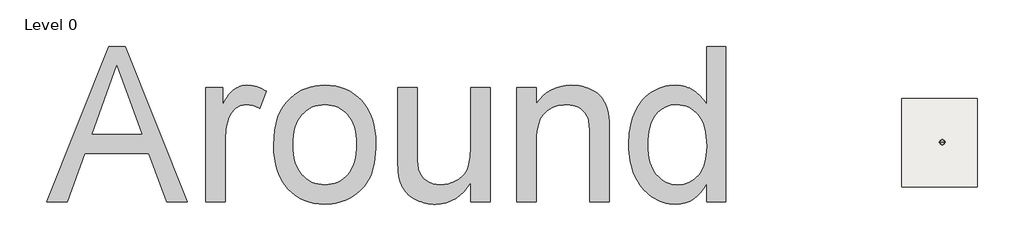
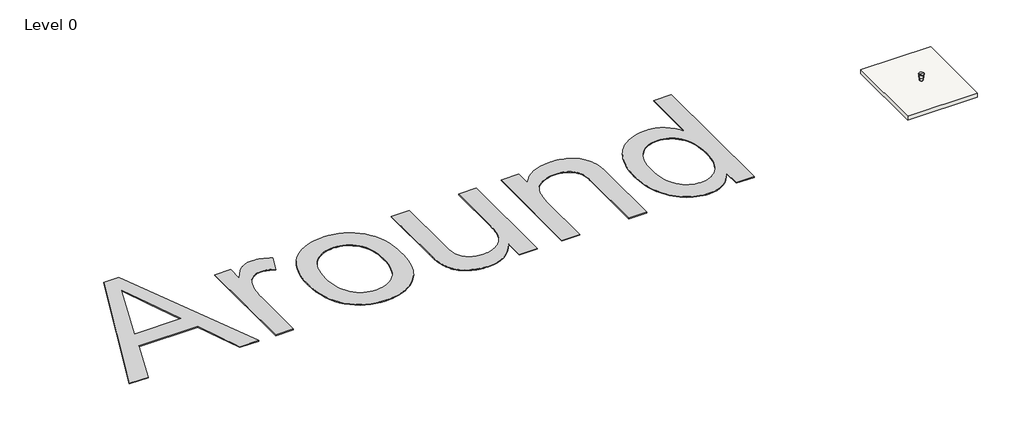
# One storey: 1 furniture element, 1 proxy, 1 slab.
"""IFC4 building model written with IfcOpenShell, lengths in millimetres."""

from ifc_helpers import new_model, si_unit, frame, origin, origin_with_axes, place, context, project, spatial, polyline, outline, extrude, transform, mapped, element, save
from components import furniture_19742f42

model = new_model("IFC4")

# Units and contexts
model_context = context("Model", 3, world=origin())
ifc_project = project(units=[si_unit("LENGTHUNIT", "METRE", prefix="MILLI")], contexts=[model_context])

# Site, building, storey
site = spatial("IfcSite", under=ifc_project)
building = spatial("IfcBuilding", under=site)
storey = spatial("IfcBuildingStorey", under=building, Name="Level 0", Elevation=0.0)

# Proxy
placement = place(None, origin())
element("IfcBuildingElementProxy", 1, Name="10 mm", ObjectType="10 mm", at=placement, inside=storey, context=model_context, shape_type="SweptSolid", body=[
    extrude(outline(polyline([(-160248.6830826, 70710.4267394), (-156238.7693352, 80756.0577544), (-155169.4590025, 80756.0577544), (-151159.5452551, 70710.4267394), (-152486.3729844, 70710.4267394), (-153636.617356, 73849.6864316), (-157774.0635284, 73849.6864316), (-158921.8553533, 70710.4267394), (-160248.6830826, 70710.4267394)]), holes=[polyline([(-157312.9847611, 75105.3903085), (-154095.2435766, 75105.3903085), (-155000.2332847, 77575.1047694), (-155704.1141689, 79500.3538775), (-156329.5135607, 77790.9288732), (-157312.9847611, 75105.3903085)])]), origin_with_axes(), (0.0, 0.0, 1.0), 50.0),
    extrude(outline(polyline([(-149974.9652306, 70710.4267394), (-149974.9652306, 78087.687016), (-148876.2243384, 78087.687016), (-148876.2243384, 76996.3037637), (-148771.7611802, 77178.8652038), (-148669.2907161, 77345.1785224), (-148568.8129462, 77495.2437196), (-148470.3278704, 77629.0607954), (-148373.8354887, 77746.6297497), (-148279.3358012, 77847.9505825), (-148186.8288078, 77933.0232939), (-148096.3145086, 78001.8478838), (-148005.7235673, 78058.7546299), (-147912.9866477, 78108.0738099), (-147818.1037497, 78149.8054237), (-147721.0748735, 78183.9494714), (-147621.900019, 78210.505953), (-147520.5791861, 78229.4748683), (-147417.112375, 78240.8562176), (-147311.4995856, 78244.6500006), (-147156.0694426, 78238.5952761), (-147000.026163, 78220.4311026), (-146843.3697467, 78190.1574801), (-146686.1001938, 78147.7744086), (-146528.2175042, 78093.281888), (-146369.7216779, 78026.6799185), (-146210.612715, 77947.9684999), (-146050.8906154, 77857.1476324), (-146470.2760899, 76731.4287271), (-146580.6406885, 76791.784367), (-146691.005287, 76844.0925882), (-146801.3698856, 76888.3533907), (-146911.7344841, 76924.5667746), (-147022.0990827, 76952.7327399), (-147132.4636812, 76972.8512865), (-147242.8282798, 76984.9224144), (-147353.1928783, 76988.9461238), (-147450.6624465, 76985.0756986), (-147545.6411471, 76973.4644231), (-147638.1289799, 76954.1122973), (-147728.1259451, 76927.0193212), (-147815.6320426, 76892.1854948), (-147900.6472724, 76849.6108181), (-147983.1716346, 76799.295291), (-148063.205129, 76741.2389137), (-148139.2149142, 76676.3230699), (-148209.6681484, 76605.4291438), (-148274.5648316, 76528.5571352), (-148333.9049638, 76445.7070442), (-148387.6885451, 76356.8788708), (-148435.9155754, 76262.072615), (-148478.5860547, 76161.2882767), (-148515.6999831, 76054.525856), (-148563.4096793, 75885.1468541), (-148604.7580828, 75711.7824638), (-148639.7451933, 75534.4326853), (-148668.3710111, 75353.0975185), (-148690.635536, 75167.7769635), (-148706.5387681, 74978.4710201), (-148716.0807073, 74785.1796885), (-148719.2613538, 74587.9029686), (-148719.2613538, 70710.4267394), (-149974.9652306, 70710.4267394)])), origin_with_axes(), (0.0, 0.0, 1.0), 50.0),
    extrude(outline(polyline([(-145580.0016616, 74399.0568777), (-145563.0254403, 74893.2833456), (-145512.0967766, 75354.477076), (-145427.2156705, 75782.638069), (-145308.3821218, 76177.7663244), (-145155.5961307, 76539.8618424), (-144968.8576971, 76868.9246228), (-144748.166821, 77164.9546658), (-144493.5235025, 77427.9519713), (-144260.4549301, 77619.365572), (-144014.9703404, 77785.2573592), (-143757.0697334, 77925.6273329), (-143486.753109, 78040.4754933), (-143204.0204673, 78129.8018403), (-142908.8718083, 78193.6063738), (-142601.3071319, 78231.8890939), (-142281.3264382, 78244.6500006), (-141926.6460417, 78229.1108184), (-141588.558656, 78182.4932719), (-141267.0642812, 78104.7973609), (-140962.1629171, 77996.0230856), (-140673.8545639, 77856.1704458), (-140402.1392216, 77685.2394417), (-140147.01689, 77483.2300732), (-139908.4875693, 77250.1423403), (-139692.6443049, 76989.655063), (-139505.5801425, 76705.4470612), (-139347.2950819, 76397.518335), (-139217.7891233, 76065.8688842), (-139117.0622666, 75710.498709), (-139045.1145118, 75331.4078092), (-139001.945859, 74928.596185), (-138987.556308, 74502.0638364), (-138993.9176009, 74156.5230082), (-139013.0014794, 73829.9127743), (-139044.8079435, 73522.2331348), (-139089.3369933, 73233.4840897), (-139146.5886288, 72963.6656388), (-139216.56285, 72712.7777823), (-139299.2596568, 72480.8205202), (-139394.6790493, 72267.7938523), (-139502.2653724, 72069.9231563), (-139621.462971, 71883.4338094), (-139752.271845, 71708.3258118), (-139894.6919945, 71544.5991635), (-140048.7234194, 71392.2538643), (-140214.3661198, 71251.2899144), (-140391.6200958, 71121.7073137), (-140580.4853471, 71003.5060622), (-140777.3980172, 70898.0273964), (-140978.794249, 70806.6125527), (-141184.6740426, 70729.2615311), (-141395.0373981, 70665.9743317), (-141609.8843154, 70616.7509543), (-141829.2147945, 70581.591399), (-142053.0288354, 70560.4956659), (-142281.3264382, 70553.4637548), (-142641.6017067, 70568.9454554), (-142984.2109752, 70615.3905573), (-143309.1542438, 70692.7990605), (-143616.4315123, 70801.1709649), (-143906.0427809, 70940.5062706), (-144177.9880496, 71110.8049775), (-144432.2673182, 71312.0670857), (-144668.8805869, 71544.2925951), (-144882.4245888, 71805.6420959), (-145067.4960571, 72094.2761779), (-145224.0949918, 72410.1948413), (-145352.2213929, 72753.398086), (-145451.8752605, 73123.8859119), (-145523.0565944, 73521.6583192), (-145565.7653948, 73946.7153078), (-145580.0016616, 74399.0568777)]), holes=[polyline([(-144324.2977847, 74401.5094244), (-144315.215698, 74086.7595527), (-144287.9694377, 73792.4347961), (-144242.5590039, 73518.5351544), (-144178.9843966, 73265.0606276), (-144097.2456158, 73032.0112157), (-143997.3426615, 72819.3869188), (-143879.2755337, 72627.1877369), (-143743.0442323, 72455.4136699), (-143593.0556772, 72303.9497547), (-143433.7167881, 72172.6810282), (-143265.0275649, 72061.6074903), (-143086.9880076, 71970.7291412), (-142899.5981163, 71900.0459808), (-142702.857891, 71849.5580091), (-142496.7673316, 71819.265226), (-142281.3264382, 71809.1676317), (-142067.035176, 71819.3227076), (-141861.9409637, 71849.7879353), (-141666.0438012, 71900.5633148), (-141479.3436887, 71971.6488462), (-141301.840626, 72063.0445294), (-141133.5346132, 72174.7503644), (-140974.4256503, 72306.7663512), (-140824.5137373, 72459.0924898), (-140688.2824359, 72632.2269538), (-140570.2153081, 72826.6679167), (-140470.3123538, 73042.4153784), (-140388.573573, 73279.4693391), (-140324.9989657, 73537.8297986), (-140279.5885319, 73817.496757), (-140252.3422716, 74118.4702143), (-140243.2601849, 74440.7501705), (-140252.3997532, 74745.153361), (-140279.8184582, 75030.510994), (-140325.5162997, 75296.8230696), (-140389.493278, 75544.0895877), (-140471.7493928, 75772.3105484), (-140572.2846443, 75981.4859516), (-140691.0990325, 76171.6157973), (-140828.1925572, 76342.7000856), (-140978.8517306, 76494.1640008), (-141138.3630644, 76625.4327273), (-141306.7265588, 76736.5062651), (-141483.9422136, 76827.3846142), (-141670.010029, 76898.0677746), (-141864.9300049, 76948.5557464), (-142068.7021413, 76978.8485294), (-142281.3264382, 76988.9461238), (-142496.7673316, 76978.8868505), (-142702.857891, 76948.7090305), (-142899.5981163, 76898.412664), (-143086.9880076, 76827.9977509), (-143265.0275649, 76737.4642911), (-143433.7167881, 76626.8122848), (-143593.0556772, 76496.0417318), (-143743.0442323, 76345.1526322), (-143879.2755337, 76173.9533808), (-143997.3426615, 75982.2523724), (-144097.2456158, 75770.0496069), (-144178.9843966, 75537.3450845), (-144242.5590039, 75284.138805), (-144287.9694377, 75010.4307685), (-144315.215698, 74716.2209749), (-144324.2977847, 74401.5094244)])]), origin_with_axes(), (0.0, 0.0, 1.0), 50.0),
    extrude(outline(polyline([(-132865.9999083, 70710.4267394), (-132865.9999083, 71978.3933495), (-133083.8167063, 71644.4254757), (-133320.3341723, 71354.9866518), (-133575.5523065, 71110.0768777), (-133849.4711087, 70909.6961535), (-134142.090579, 70753.844479), (-134453.4107175, 70642.5218545), (-134783.431524, 70575.7282797), (-135132.1529986, 70553.4637548), (-135289.0201806, 70557.372501), (-135443.2432107, 70569.0987396), (-135594.8220891, 70588.6424706), (-135743.7568155, 70616.003694), (-135890.0473902, 70651.1824098), (-136033.693813, 70694.178618), (-136174.696084, 70744.9923185), (-136313.0542031, 70803.6235115), (-136445.6833266, 70868.1561448), (-136569.4986106, 70936.6741664), (-136684.5000551, 71009.1775763), (-136790.6876602, 71085.6663745), (-136888.0614258, 71166.1405609), (-136976.6213519, 71250.6001357), (-137056.3674385, 71339.0450987), (-137127.2996857, 71431.47545), (-137191.353306, 71528.5426472), (-137250.463512, 71630.8981482), (-137304.6303037, 71738.5419528), (-137353.8536811, 71851.4740611), (-137398.1336442, 71969.6944731), (-137437.4701929, 72093.2031888), (-137471.8633274, 72222.0002081), (-137501.3130475, 72356.0855312), (-137518.557516, 72454.8005332), (-137533.5027221, 72567.0045417), (-137546.1486657, 72692.6975568), (-137556.4953468, 72831.8795783), (-137570.2909216, 73150.7106407), (-137574.8894465, 73523.4977292), (-137574.8894465, 78087.687016), (-136319.1855697, 78087.687016), (-136319.1855697, 74114.5614681), (-136314.4337606, 73678.6213038), (-136300.1783333, 73319.9363585), (-136289.4867628, 73169.564593), (-136276.4192877, 73038.5066322), (-136260.9759081, 72926.7624762), (-136243.156624, 72834.3321249), (-136209.6448735, 72717.9702834), (-136167.9707412, 72608.0080558), (-136118.1342272, 72504.445442), (-136060.1353314, 72407.2824422), (-135993.9740538, 72316.5190562), (-135919.6503945, 72232.155284), (-135837.1643534, 72154.1911258), (-135746.5159305, 72082.6265814), (-135649.0080413, 72018.5346401), (-135545.9436011, 71962.9882909), (-135437.3226099, 71915.9875339), (-135323.1450677, 71877.5323691), (-135203.4109746, 71847.6227965), (-135078.1203305, 71826.258816), (-134947.2731355, 71813.4404278), (-134810.8693894, 71809.1676317), (-134672.1663809, 71813.5362304), (-134535.6476718, 71826.6420264), (-134401.313262, 71848.4850199), (-134269.1631515, 71879.0652108), (-134139.1973404, 71918.382599), (-134011.4158287, 71966.4371846), (-133885.8186163, 72023.2289676), (-133762.4057032, 72088.757948), (-133644.5493411, 72161.817013), (-133535.6217816, 72241.1990498), (-133435.6230247, 72326.9040583), (-133344.5530703, 72418.9320387), (-133262.4119186, 72517.2829908), (-133189.1995695, 72621.9569148), (-133124.9160229, 72732.9538105), (-133069.5612789, 72850.273678), (-133021.8515827, 72977.5570162), (-132980.5031793, 73118.4443241), (-132945.5160687, 73272.9356015), (-132916.8902509, 73441.0308486), (-132894.625726, 73622.7300653), (-132878.7224939, 73818.0332516), (-132869.1805547, 74026.9404075), (-132865.9999083, 74249.451533), (-132865.9999083, 78087.687016), (-131610.2960314, 78087.687016), (-131610.2960314, 70710.4267394), (-132865.9999083, 70710.4267394)])), origin_with_axes(), (0.0, 0.0, 1.0), 50.0),
    extrude(outline(polyline([(-129883.7032007, 70710.4267394), (-129883.7032007, 78087.687016), (-128627.9993238, 78087.687016), (-128627.9993238, 77057.6174295), (-128420.8357753, 77335.8281884), (-128191.7525912, 77576.9441794), (-127940.7497716, 77780.9654025), (-127667.8273164, 77947.8918579), (-127372.9852257, 78077.7235453), (-127056.2234994, 78170.4604649), (-126717.5421376, 78226.1026167), (-126356.9411403, 78244.6500006), (-126197.3148433, 78240.9136991), (-126040.9458348, 78229.7047946), (-125887.8341149, 78211.023287), (-125737.9796834, 78184.8691764), (-125591.3825404, 78151.2424628), (-125448.0426859, 78110.1431461), (-125307.96012, 78061.5712265), (-125171.1348425, 78005.5267038), (-125040.1918448, 77943.408296), (-124917.7561183, 77876.6147213), (-124803.8276629, 77805.1459795), (-124698.4064787, 77729.0020707), (-124601.4925656, 77648.1829949), (-124513.0859236, 77562.6887521), (-124433.1865528, 77472.5193422), (-124361.7944531, 77377.6747653), (-124297.1660172, 77278.212503), (-124237.5576377, 77174.1900367), (-124182.9693145, 77065.6073666), (-124133.4010478, 76952.4644926), (-124088.8528374, 76834.7614146), (-124049.3246835, 76712.4981328), (-124014.8165859, 76585.6746471), (-123985.3285447, 76454.2909574), (-123969.808523, 76359.6763068), (-123956.3578376, 76248.7368926), (-123944.9764884, 76121.4727149), (-123935.6644754, 75977.8837737), (-123923.248458, 75641.7316006), (-123919.1097856, 75240.2803734), (-123919.1097856, 70710.4267394), (-125174.8136624, 70710.4267394), (-125174.8136624, 75071.0546556), (-125177.0746039, 75250.9719438), (-125183.8574282, 75419.1629935), (-125195.1621353, 75575.6278046), (-125210.9887253, 75720.3663771), (-125231.3371982, 75853.3787109), (-125256.2075539, 75974.6648062), (-125285.5997925, 76084.2246629), (-125319.5139139, 76182.058281), (-125359.157031, 76271.7103568), (-125405.7362565, 76356.7255866), (-125459.2515905, 76437.1039705), (-125519.7030329, 76512.8455083), (-125587.0905838, 76583.9502002), (-125661.4142431, 76650.4180461), (-125742.6740109, 76712.249046), (-125830.8698872, 76769.4432), (-125924.5456723, 76820.8891977), (-126022.2451668, 76865.4757291), (-126123.9683705, 76903.2027942), (-126229.7152836, 76934.0703928), (-126339.485906, 76958.0785251), (-126453.2802378, 76975.227191), (-126571.0982788, 76985.5163906), (-126692.9400292, 76988.9461238), (-126886.9786211, 76981.2435945), (-127074.2343888, 76958.1360067), (-127254.7073322, 76919.6233603), (-127428.3974512, 76865.7056554), (-127595.304746, 76796.3828919), (-127755.4292165, 76711.6550699), (-127908.7708627, 76611.5221893), (-128055.3296847, 76495.9842502), (-128189.5491314, 76358.909886), (-128305.8726518, 76194.16773), (-128404.300246, 76001.7577823), (-128484.831914, 75781.6800429), (-128547.4676558, 75533.9345118), (-128592.2074714, 75258.5211889), (-128619.0513607, 74955.4400744), (-128627.9993238, 74624.6911681), (-128627.9993238, 70710.4267394), (-129883.7032007, 70710.4267394)])), origin_with_axes(), (0.0, 0.0, 1.0), 50.0),
    extrude(outline(polyline([(-117640.5904012, 70710.4267394), (-117640.5904012, 71895.0067639), (-117818.5149954, 71580.5826211), (-118016.2898888, 71308.0816974), (-118233.9150816, 71077.5039927), (-118471.3905737, 70888.8495071), (-118728.7163651, 70742.1182405), (-119005.8924558, 70637.3101929), (-119302.9188459, 70574.4253643), (-119619.7955353, 70553.4637548), (-119829.1817042, 70561.051321), (-120034.2759165, 70583.8140194), (-120235.0781722, 70621.7518502), (-120431.5884713, 70674.8648132), (-120623.8068138, 70743.1529086), (-120811.7331996, 70826.6161362), (-120995.3676289, 70925.2544962), (-121174.7101016, 71039.0679884), (-121346.9248605, 71166.4662898), (-121509.1761488, 71305.859077), (-121661.4639664, 71457.2463501), (-121803.7883133, 71620.6281091), (-121936.1491895, 71796.004354), (-122058.546595, 71983.3750848), (-122170.9805297, 72182.7403015), (-122273.4509938, 72394.100004), (-122364.846677, 72615.4998193), (-122444.0562691, 72844.9853743), (-122511.0797701, 73082.556669), (-122565.91718, 73328.2137034), (-122608.5684988, 73581.9564775), (-122639.0337265, 73843.7849912), (-122657.3128632, 74113.6992447), (-122663.4059087, 74391.6992378), (-122657.7918762, 74663.8169511), (-122640.9497786, 74929.5733716), (-122612.8796159, 75188.9684992), (-122573.5813882, 75442.002334), (-122523.0550954, 75688.674876), (-122461.3007376, 75928.9861252), (-122388.3183147, 76162.9360815), (-122304.1078268, 76390.5247449), (-122208.6884343, 76608.379864), (-122102.0792977, 76813.1291869), (-121984.2804172, 77004.7727138), (-121855.2917926, 77183.3104445), (-121715.1134241, 77348.7423793), (-121563.7453115, 77501.0685179), (-121401.1874548, 77640.2888604), (-121227.4398542, 77766.4034069), (-121045.4723902, 77878.4924523), (-120858.2549436, 77975.6362917), (-120665.7875144, 78057.834925), (-120468.0701025, 78125.0883522), (-120265.102708, 78177.3965734), (-120056.8853308, 78214.7595885), (-119843.417971, 78237.1773976), (-119624.7006285, 78244.6500006), (-119464.4420344, 78239.3042154), (-119308.628681, 78223.2668597), (-119157.2605684, 78196.5379334), (-119010.3376966, 78159.1174368), (-118867.8600656, 78111.0053696), (-118729.8276753, 78052.2017319), (-118596.2405258, 77982.7065238), (-118467.0986171, 77902.5197451), (-118343.1300489, 77813.7873743), (-118225.0629211, 77718.6553896), (-118112.8972336, 77617.123791), (-118006.6329864, 77509.1925786), (-117906.2701796, 77394.8617523), (-117811.8088131, 77274.1313121), (-117723.248887, 77147.001258), (-117640.5904012, 77013.4715901), (-117640.5904012, 80756.0577544), (-116384.8865244, 80756.0577544), (-116384.8865244, 70710.4267394), (-117640.5904012, 70710.4267394)]), holes=[polyline([(-121407.7020318, 74396.6043311), (-121398.8498713, 74081.8927805), (-121372.2933898, 73787.682987), (-121328.0325873, 73513.9749505), (-121266.0674637, 73260.768671), (-121186.3980191, 73028.0641485), (-121089.0242535, 72815.8613831), (-120973.9461669, 72624.1603746), (-120841.1637593, 72452.9611232), (-120696.3485447, 72302.0720236), (-120545.1720373, 72171.3014707), (-120387.6342371, 72060.6494643), (-120223.735144, 71970.1160046), (-120053.4747581, 71899.7010914), (-119876.8530794, 71849.4047249), (-119693.8701078, 71819.226905), (-119504.5258435, 71809.1676317), (-119313.8211821, 71818.7670525), (-119130.4358396, 71847.5653149), (-118954.369816, 71895.562419), (-118785.6231112, 71962.7583647), (-118624.1957253, 72049.153152), (-118470.0876583, 72154.7467809), (-118323.2989101, 72279.5392514), (-118183.8294808, 72423.5305636), (-118056.5078215, 72587.257212), (-117946.1623835, 72771.2556911), (-117852.7931667, 72975.5260011), (-117776.4001711, 73200.0681418), (-117716.9833968, 73444.8821132), (-117674.5428437, 73709.9679155), (-117649.0785118, 73995.3255485), (-117640.5904012, 74300.9550123), (-117649.231796, 74636.4557277), (-117675.1559804, 74948.8871763), (-117718.3629543, 75238.2493582), (-117778.8527177, 75504.5422732), (-117856.6252708, 75747.7659215), (-117951.6806134, 75967.920303), (-118064.0187456, 76165.0054177), (-118193.6396673, 76339.0212656), (-118335.9065326, 76491.3474042), (-118486.1824956, 76623.3633911), (-118644.4675561, 76735.069226), (-118810.7617142, 76826.4649092), (-118985.06497, 76897.5504406), (-119167.3773233, 76948.3258201), (-119357.6987742, 76978.7910479), (-119556.0293228, 76988.9461238), (-119749.9721121, 76979.1934188), (-119935.7141986, 76949.9353039), (-120113.2555823, 76901.171779), (-120282.5962633, 76832.9028441), (-120443.7362413, 76745.1284994), (-120596.6755166, 76637.8487446), (-120741.4140891, 76511.0635799), (-120877.9519588, 76364.7730053), (-121002.1121322, 76197.4825001), (-121109.7176157, 76007.6975437), (-121200.7684095, 75795.4181362), (-121275.2645136, 75560.6442775), (-121333.2059278, 75303.3759676), (-121374.5926523, 75023.6132066), (-121399.4246869, 74721.3559944), (-121407.7020318, 74396.6043311)])]), origin_with_axes(), (0.0, 0.0, 1.0), 50.0),
])

# Furniture
furniture_shape = furniture_19742f42(model_context)
element("IfcFurniture", 2, ObjectType="Table_Bensen_Around_ARD001 : Table_Bensen_Around_ARD001", at=placement, inside=storey, context=model_context, shape_type="MappedRepresentation", body=[
    mapped(furniture_shape, transform((-102414.7835206, 74562.5351234, 0.0), x_axis=(1.0, 0.0, 0.0), y_axis=(0.0, 1.0, 0.0), z_axis=(0.0, 0.0, 1.0))),
])

# Slab
element("IfcSlab", 3, ObjectType="FL_300 mm_Generic", at=placement, inside=storey, context=model_context, shape_type="SweptSolid", body=[
    extrude(outline(polyline([(-100147.8885325, 77369.9753886), (-100147.8885325, 71669.9753886), (-105047.8885325, 71669.9753886), (-105047.8885325, 77369.9753886), (-100147.8885325, 77369.9753886)])), frame((0.0, 0.0, -300.0), z_axis=(0.0, 0.0, 1.0), x_axis=(1.0, 0.0, 0.0)), (0.0, 0.0, 1.0), 300.0),
])

save(model, "model.ifc")
